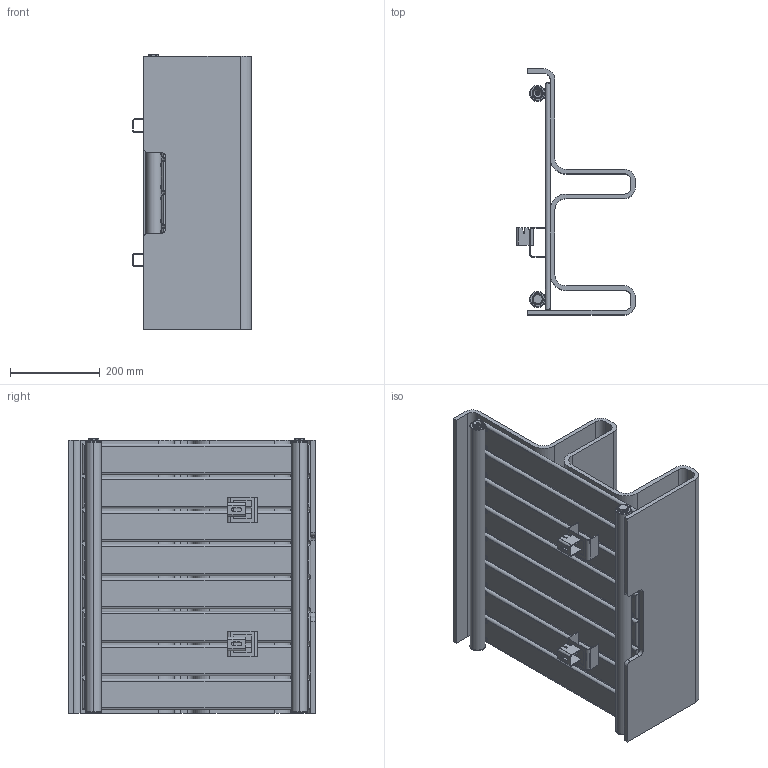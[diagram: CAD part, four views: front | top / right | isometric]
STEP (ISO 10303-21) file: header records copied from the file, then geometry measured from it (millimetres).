
FILE_DESCRIPTION (( 'STEP AP203' ), '1' );
FILE_NAME ('FREB61545SH.STEP', '2026-03-04T14:27:02', ( '' ), ( '' ), 'SwSTEP 2.0', 'SolidWorks 2025', '' );
FILE_SCHEMA (( 'CONFIG_CONTROL_DESIGN' ));
Length unit declared in the file: millimetre
Products named in the file (9): SUPPORTO; FREB61545SH; tappo_sfiato.prt; tappo_sx.prt; TRAVERSINO PIATTO 70 [Con configurazioni]_510; SUPPORTO A SALDARE_B; COPERTURA HORIZONTAL; ZANCA-FISSAGGIO; COLLETTORE INT 75 [Con configurazioni]_605
Assembly tree (17 placements, depth 3):
  FREB61545SH
    COLLETTORE INT 75 [Con configurazioni]_605  x2
    TRAVERSINO PIATTO 70 [Con configurazioni]_510  x8
    COPERTURA HORIZONTAL
    tappo_sx.prt
    tappo_sfiato.prt
    SUPPORTO A SALDARE_B  x2
      ZANCA-FISSAGGIO
      SUPPORTO
Bounding box: 265.5 x 550 x 613.5 mm (x, y, z)
Volume: 8924137.3 mm3; surface area: 3117828.9 mm2
Topology: 15 solids, 19 shells, 1029 faces, 2790 edges, 1761 vertices
Faces by surface type: plane 500, cylinder 326, cone 130, bspline 49, torus 24
Entity records: 23887 total; most frequent: CARTESIAN_POINT 13774, ORIENTED_EDGE 2122, DIRECTION 1463, EDGE_CURVE 1065, VERTEX_POINT 671, AXIS2_PLACEMENT_3D 527, B_SPLINE_CURVE_WITH_KNOTS 483, EDGE_LOOP 411
